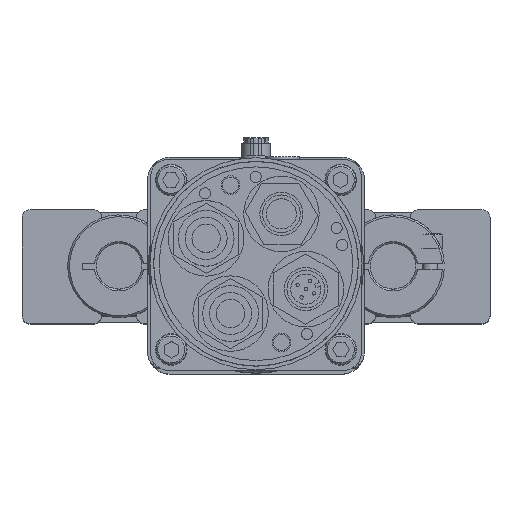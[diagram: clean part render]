
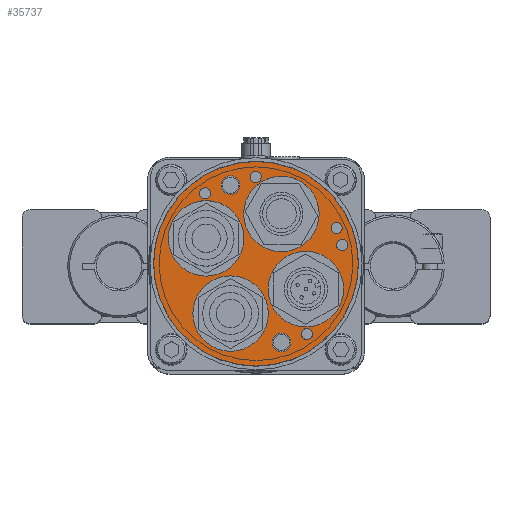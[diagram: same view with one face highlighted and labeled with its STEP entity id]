
A CAD part, top view. The second image highlights one B-rep face of the part: STEP entity #35737.
In plain terms, the highlighted planar face has unit normal (0, 0, 1) as drawn and (0, 0, -1) by its records, which use the part's own axes.
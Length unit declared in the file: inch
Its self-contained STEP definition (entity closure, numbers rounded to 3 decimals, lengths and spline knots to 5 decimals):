
#52 = FACE_OUTER_BOUND ( 'NONE', #17658, .T. ) ;
#664 = DIRECTION ( 'NONE',  ( 1., 0., 0. ) ) ;
#687 = DIRECTION ( 'NONE',  ( -1., 0., 0. ) ) ;
#734 = DIRECTION ( 'NONE',  ( -1., 0., 0. ) ) ;
#1359 = EDGE_LOOP ( 'NONE', ( #2016 ) ) ;
#1763 = ORIENTED_EDGE ( 'NONE', *, *, #15394, .F. ) ;
#1884 = CARTESIAN_POINT ( 'NONE',  ( -0.54565, -0.27802, -12.39812 ) ) ;
#2016 = ORIENTED_EDGE ( 'NONE', *, *, #30880, .F. ) ;
#2262 = DIRECTION ( 'NONE',  ( 0., 0., -1. ) ) ;
#3444 = VERTEX_POINT ( 'NONE', #3655 ) ;
#3574 = EDGE_LOOP ( 'NONE', ( #35115 ) ) ;
#3580 = FACE_BOUND ( 'NONE', #40786, .T. ) ;
#3655 = CARTESIAN_POINT ( 'NONE',  ( 0.69141, -0.54565, -12.39812 ) ) ;
#4478 = ORIENTED_EDGE ( 'NONE', *, *, #27687, .F. ) ;
#4694 = ORIENTED_EDGE ( 'NONE', *, *, #17298, .F. ) ;
#4721 = EDGE_CURVE ( 'NONE', #11058, #11058, #16874, .T. ) ;
#4816 = DIRECTION ( 'NONE',  ( 0., 0., -1. ) ) ;
#4995 = EDGE_LOOP ( 'NONE', ( #32508 ) ) ;
#5096 = DIRECTION ( 'NONE',  ( 0., 0., -1. ) ) ;
#6102 = FACE_BOUND ( 'NONE', #39985, .T. ) ;
#6248 = AXIS2_PLACEMENT_3D ( 'NONE', #14942, #21162, #33265 ) ;
#6280 = EDGE_LOOP ( 'NONE', ( #4694 ) ) ;
#6304 = FACE_BOUND ( 'NONE', #7104, .T. ) ;
#6557 = DIRECTION ( 'NONE',  ( 0., 0., -1. ) ) ;
#7104 = EDGE_LOOP ( 'NONE', ( #24484 ) ) ;
#7427 = CARTESIAN_POINT ( 'NONE',  ( -0.17746, -0.86119, -12.39812 ) ) ;
#7916 = CIRCLE ( 'NONE', #39090, 0.06102 ) ;
#9512 = VERTEX_POINT ( 'NONE', #16153 ) ;
#9635 = FACE_BOUND ( 'NONE', #23761, .T. ) ;
#9831 = FACE_BOUND ( 'NONE', #17532, .T. ) ;
#9918 = CARTESIAN_POINT ( 'NONE',  ( -0.9445, 0.39055, -12.39812 ) ) ;
#9958 = AXIS2_PLACEMENT_3D ( 'NONE', #26944, #5096, #17780 ) ;
#10273 = CARTESIAN_POINT ( 'NONE',  ( -0.88347, 0.39055, -12.39812 ) ) ;
#10645 = DIRECTION ( 'NONE',  ( 1., 0., 0. ) ) ;
#11058 = VERTEX_POINT ( 'NONE', #29120 ) ;
#11134 = ORIENTED_EDGE ( 'NONE', *, *, #4721, .F. ) ;
#11205 = VERTEX_POINT ( 'NONE', #23653 ) ;
#11364 = ORIENTED_EDGE ( 'NONE', *, *, #18986, .F. ) ;
#11824 = AXIS2_PLACEMENT_3D ( 'NONE', #10273, #29379, #25634 ) ;
#11838 = DIRECTION ( 'NONE',  ( -1., 0., 0. ) ) ;
#12736 = CIRCLE ( 'NONE', #12764, 0.06102 ) ;
#12764 = AXIS2_PLACEMENT_3D ( 'NONE', #14755, #2262, #11838 ) ;
#13155 = FACE_BOUND ( 'NONE', #6280, .T. ) ;
#13223 = CIRCLE ( 'NONE', #27794, 0.41339 ) ;
#13256 = EDGE_CURVE ( 'NONE', #23044, #23044, #30494, .T. ) ;
#14611 = AXIS2_PLACEMENT_3D ( 'NONE', #1884, #14989, #23933 ) ;
#14755 = CARTESIAN_POINT ( 'NONE',  ( 0.55688, 0.77112, -12.39812 ) ) ;
#14942 = CARTESIAN_POINT ( 'NONE',  ( 0., 0., -12.39812 ) ) ;
#14989 = DIRECTION ( 'NONE',  ( 0., 0., -1. ) ) ;
#15372 = AXIS2_PLACEMENT_3D ( 'NONE', #20402, #4816, #23934 ) ;
#15394 = EDGE_CURVE ( 'NONE', #11205, #11205, #37926, .T. ) ;
#15659 = FACE_BOUND ( 'NONE', #3574, .T. ) ;
#15923 = CARTESIAN_POINT ( 'NONE',  ( -0.9443, 0.20333, -12.39812 ) ) ;
#15947 = CIRCLE ( 'NONE', #40513, 0.41339 ) ;
#16153 = CARTESIAN_POINT ( 'NONE',  ( 0.49586, 0.77112, -12.39812 ) ) ;
#16481 = CIRCLE ( 'NONE', #39706, 0.41339 ) ;
#16719 = CARTESIAN_POINT ( 'NONE',  ( -0.0583, 0.95118, -12.39812 ) ) ;
#16874 = CIRCLE ( 'NONE', #6248, 1.12008 ) ;
#16909 = CARTESIAN_POINT ( 'NONE',  ( 0.00272, 0.95118, -12.39812 ) ) ;
#17298 = EDGE_CURVE ( 'NONE', #34246, #34246, #23691, .T. ) ;
#17532 = EDGE_LOOP ( 'NONE', ( #33772 ) ) ;
#17658 = EDGE_LOOP ( 'NONE', ( #11134 ) ) ;
#17780 = DIRECTION ( 'NONE',  ( -1., 0., 0. ) ) ;
#18494 = EDGE_CURVE ( 'NONE', #22582, #22582, #37719, .T. ) ;
#18768 = DIRECTION ( 'NONE',  ( 0., 0., 1. ) ) ;
#18841 = EDGE_CURVE ( 'NONE', #3444, #3444, #16481, .T. ) ;
#18986 = EDGE_CURVE ( 'NONE', #29450, #29450, #21112, .T. ) ;
#19125 = DIRECTION ( 'NONE',  ( 1., 0., 0. ) ) ;
#20125 = ORIENTED_EDGE ( 'NONE', *, *, #18841, .F. ) ;
#20402 = CARTESIAN_POINT ( 'NONE',  ( 0.27982, 0.86119, -12.39812 ) ) ;
#21112 = CIRCLE ( 'NONE', #36426, 0.10236 ) ;
#21162 = DIRECTION ( 'NONE',  ( 0., 0., 1. ) ) ;
#21681 = CARTESIAN_POINT ( 'NONE',  ( 0.54565, 0.27802, -12.39812 ) ) ;
#22290 = DIRECTION ( 'NONE',  ( 1., 0., 0. ) ) ;
#22342 = AXIS2_PLACEMENT_3D ( 'NONE', #15923, #6557, #734 ) ;
#22496 = PLANE ( 'NONE',  #30490 ) ;
#22582 = VERTEX_POINT ( 'NONE', #9918 ) ;
#22676 = DIRECTION ( 'NONE',  ( 0., 0., -1. ) ) ;
#22709 = DIRECTION ( 'NONE',  ( 0., 0., -1. ) ) ;
#22949 = VERTEX_POINT ( 'NONE', #35016 ) ;
#23044 = VERTEX_POINT ( 'NONE', #35741 ) ;
#23151 = VERTEX_POINT ( 'NONE', #16719 ) ;
#23653 = CARTESIAN_POINT ( 'NONE',  ( 0.38218, 0.86119, -12.39812 ) ) ;
#23691 = CIRCLE ( 'NONE', #22342, 0.06102 ) ;
#23761 = EDGE_LOOP ( 'NONE', ( #4478 ) ) ;
#23933 = DIRECTION ( 'NONE',  ( 1., 0., 0. ) ) ;
#23934 = DIRECTION ( 'NONE',  ( 1., 0., 0. ) ) ;
#24484 = ORIENTED_EDGE ( 'NONE', *, *, #30751, .F. ) ;
#24931 = CARTESIAN_POINT ( 'NONE',  ( -0.13227, -0.27802, -12.39812 ) ) ;
#25211 = FACE_BOUND ( 'NONE', #4995, .T. ) ;
#25634 = DIRECTION ( 'NONE',  ( -1., 0., 0. ) ) ;
#25753 = CARTESIAN_POINT ( 'NONE',  ( 0.13536, 0.54565, -12.39812 ) ) ;
#26412 = CARTESIAN_POINT ( 'NONE',  ( -0.27982, -0.86119, -12.39812 ) ) ;
#26944 = CARTESIAN_POINT ( 'NONE',  ( -0.55688, -0.77112, -12.39812 ) ) ;
#27687 = EDGE_CURVE ( 'NONE', #22949, #22949, #13223, .T. ) ;
#27749 = EDGE_CURVE ( 'NONE', #23151, #23151, #7916, .T. ) ;
#27794 = AXIS2_PLACEMENT_3D ( 'NONE', #21681, #34393, #41021 ) ;
#28338 = EDGE_LOOP ( 'NONE', ( #1763 ) ) ;
#28740 = FACE_BOUND ( 'NONE', #28338, .T. ) ;
#29120 = CARTESIAN_POINT ( 'NONE',  ( 1.12008, 0., -12.39812 ) ) ;
#29379 = DIRECTION ( 'NONE',  ( 0., 0., -1. ) ) ;
#29450 = VERTEX_POINT ( 'NONE', #7427 ) ;
#30490 = AXIS2_PLACEMENT_3D ( 'NONE', #34992, #18768, #22290 ) ;
#30494 = CIRCLE ( 'NONE', #9958, 0.06102 ) ;
#30751 = EDGE_CURVE ( 'NONE', #35338, #35338, #15947, .T. ) ;
#30880 = EDGE_CURVE ( 'NONE', #35129, #35129, #32547, .T. ) ;
#31015 = EDGE_LOOP ( 'NONE', ( #20125 ) ) ;
#32508 = ORIENTED_EDGE ( 'NONE', *, *, #40430, .F. ) ;
#32547 = CIRCLE ( 'NONE', #14611, 0.41339 ) ;
#32568 = ORIENTED_EDGE ( 'NONE', *, *, #27749, .F. ) ;
#33265 = DIRECTION ( 'NONE',  ( 1., 0., 0. ) ) ;
#33772 = ORIENTED_EDGE ( 'NONE', *, *, #13256, .F. ) ;
#34246 = VERTEX_POINT ( 'NONE', #34450 ) ;
#34372 = FACE_BOUND ( 'NONE', #1359, .T. ) ;
#34393 = DIRECTION ( 'NONE',  ( 0., 0., -1. ) ) ;
#34450 = CARTESIAN_POINT ( 'NONE',  ( -1.00533, 0.20333, -12.39812 ) ) ;
#34992 = CARTESIAN_POINT ( 'NONE',  ( 0., 0., -12.39812 ) ) ;
#35016 = CARTESIAN_POINT ( 'NONE',  ( 0.95904, 0.27802, -12.39812 ) ) ;
#35115 = ORIENTED_EDGE ( 'NONE', *, *, #18494, .F. ) ;
#35129 = VERTEX_POINT ( 'NONE', #24931 ) ;
#35338 = VERTEX_POINT ( 'NONE', #25753 ) ;
#35737 = ADVANCED_FACE ( 'NONE', ( #6102, #34372, #9635, #15659, #13155, #9831, #3580, #25211, #40806, #6304, #28740, #52 ), #22496, .F. ) ;
#35741 = CARTESIAN_POINT ( 'NONE',  ( -0.61791, -0.77112, -12.39812 ) ) ;
#35992 = CARTESIAN_POINT ( 'NONE',  ( 0.27802, -0.54565, -12.39812 ) ) ;
#36426 = AXIS2_PLACEMENT_3D ( 'NONE', #26412, #39091, #10645 ) ;
#37719 = CIRCLE ( 'NONE', #11824, 0.06102 ) ;
#37926 = CIRCLE ( 'NONE', #15372, 0.10236 ) ;
#38534 = DIRECTION ( 'NONE',  ( 0., 0., -1. ) ) ;
#38719 = CARTESIAN_POINT ( 'NONE',  ( -0.27802, 0.54565, -12.39812 ) ) ;
#39090 = AXIS2_PLACEMENT_3D ( 'NONE', #16909, #38534, #687 ) ;
#39091 = DIRECTION ( 'NONE',  ( 0., 0., -1. ) ) ;
#39706 = AXIS2_PLACEMENT_3D ( 'NONE', #35992, #22676, #19125 ) ;
#39985 = EDGE_LOOP ( 'NONE', ( #11364 ) ) ;
#40430 = EDGE_CURVE ( 'NONE', #9512, #9512, #12736, .T. ) ;
#40513 = AXIS2_PLACEMENT_3D ( 'NONE', #38719, #22709, #664 ) ;
#40786 = EDGE_LOOP ( 'NONE', ( #32568 ) ) ;
#40806 = FACE_BOUND ( 'NONE', #31015, .T. ) ;
#41021 = DIRECTION ( 'NONE',  ( 1., 0., 0. ) ) ;
